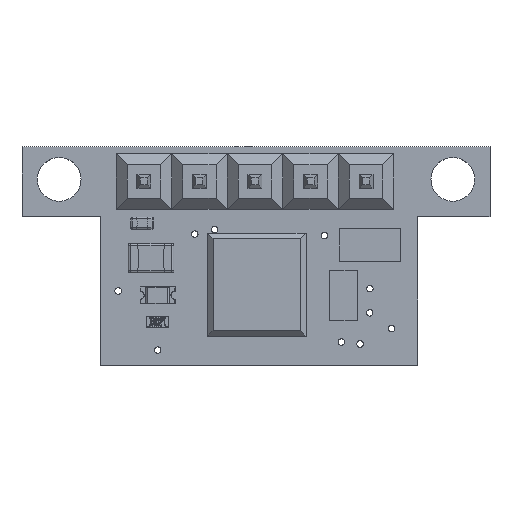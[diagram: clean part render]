
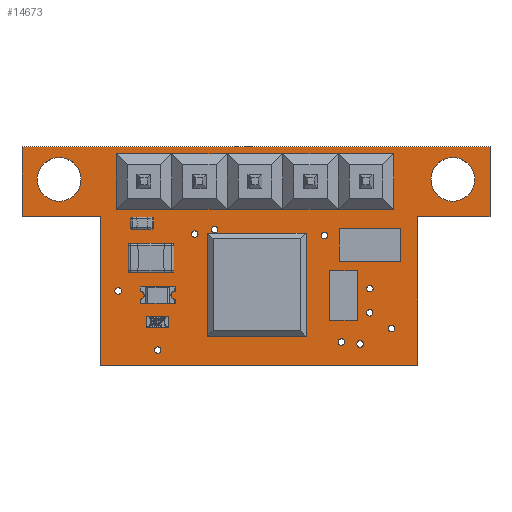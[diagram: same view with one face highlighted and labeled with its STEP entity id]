
A CAD part, top view. The second image highlights one B-rep face of the part: STEP entity #14673.
In plain terms, the highlighted planar face has unit normal (0, 0, 1).
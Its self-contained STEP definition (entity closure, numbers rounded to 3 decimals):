
#378=FACE_BOUND('',#1917,.T.);
#379=FACE_BOUND('',#1918,.T.);
#380=FACE_BOUND('',#1919,.T.);
#381=FACE_BOUND('',#1920,.T.);
#382=FACE_BOUND('',#1921,.T.);
#383=FACE_BOUND('',#1922,.T.);
#384=FACE_BOUND('',#1923,.T.);
#385=FACE_BOUND('',#1924,.T.);
#386=FACE_BOUND('',#1925,.T.);
#387=FACE_BOUND('',#1926,.T.);
#388=FACE_BOUND('',#1927,.T.);
#389=FACE_BOUND('',#1928,.T.);
#390=FACE_BOUND('',#1929,.T.);
#391=FACE_BOUND('',#1930,.T.);
#392=FACE_BOUND('',#1931,.T.);
#393=FACE_BOUND('',#1932,.T.);
#394=FACE_BOUND('',#1933,.T.);
#395=FACE_BOUND('',#1934,.T.);
#454=PLANE('',#15714);
#1090=FACE_OUTER_BOUND('',#1916,.T.);
#1916=EDGE_LOOP('',(#9793,#9794,#9795,#9796,#9797,#9798,#9799,#9800));
#1917=EDGE_LOOP('',(#9801));
#1918=EDGE_LOOP('',(#9802));
#1919=EDGE_LOOP('',(#9803));
#1920=EDGE_LOOP('',(#9804));
#1921=EDGE_LOOP('',(#9805));
#1922=EDGE_LOOP('',(#9806));
#1923=EDGE_LOOP('',(#9807));
#1924=EDGE_LOOP('',(#9808));
#1925=EDGE_LOOP('',(#9809));
#1926=EDGE_LOOP('',(#9810));
#1927=EDGE_LOOP('',(#9811));
#1928=EDGE_LOOP('',(#9812));
#1929=EDGE_LOOP('',(#9813));
#1930=EDGE_LOOP('',(#9814));
#1931=EDGE_LOOP('',(#9815));
#1932=EDGE_LOOP('',(#9816));
#1933=EDGE_LOOP('',(#9817));
#1934=EDGE_LOOP('',(#9818));
#2804=LINE('',#20985,#4380);
#2807=LINE('',#20991,#4383);
#2810=LINE('',#20997,#4386);
#2813=LINE('',#21003,#4389);
#2816=LINE('',#21009,#4392);
#2819=LINE('',#21015,#4395);
#2822=LINE('',#21021,#4398);
#2825=LINE('',#21025,#4401);
#4380=VECTOR('',#16999,10.);
#4383=VECTOR('',#17004,10.);
#4386=VECTOR('',#17009,10.);
#4389=VECTOR('',#17014,10.);
#4392=VECTOR('',#17019,10.);
#4395=VECTOR('',#17024,10.);
#4398=VECTOR('',#17029,10.);
#4401=VECTOR('',#17034,10.);
#5937=CIRCLE('',#15654,0.508);
#5939=CIRCLE('',#15657,0.508);
#5941=CIRCLE('',#15660,0.15);
#5943=CIRCLE('',#15663,0.15);
#5945=CIRCLE('',#15666,0.15);
#5947=CIRCLE('',#15669,0.15);
#5949=CIRCLE('',#15672,0.15);
#5951=CIRCLE('',#15675,0.15);
#5953=CIRCLE('',#15678,0.15);
#5955=CIRCLE('',#15681,0.15);
#5957=CIRCLE('',#15684,0.15);
#5959=CIRCLE('',#15687,0.15);
#5961=CIRCLE('',#15690,0.15);
#5963=CIRCLE('',#15693,0.508);
#5965=CIRCLE('',#15696,0.508);
#5967=CIRCLE('',#15699,0.508);
#5968=CIRCLE('',#15701,1.);
#5970=CIRCLE('',#15704,1.);
#6256=VERTEX_POINT('',#20873);
#6258=VERTEX_POINT('',#20879);
#6260=VERTEX_POINT('',#20885);
#6262=VERTEX_POINT('',#20891);
#6264=VERTEX_POINT('',#20897);
#6266=VERTEX_POINT('',#20903);
#6268=VERTEX_POINT('',#20909);
#6270=VERTEX_POINT('',#20915);
#6272=VERTEX_POINT('',#20921);
#6274=VERTEX_POINT('',#20927);
#6276=VERTEX_POINT('',#20933);
#6278=VERTEX_POINT('',#20939);
#6280=VERTEX_POINT('',#20945);
#6282=VERTEX_POINT('',#20951);
#6284=VERTEX_POINT('',#20957);
#6286=VERTEX_POINT('',#20963);
#6287=VERTEX_POINT('',#20967);
#6289=VERTEX_POINT('',#20973);
#6293=VERTEX_POINT('',#20982);
#6294=VERTEX_POINT('',#20984);
#6296=VERTEX_POINT('',#20990);
#6298=VERTEX_POINT('',#20996);
#6300=VERTEX_POINT('',#21002);
#6302=VERTEX_POINT('',#21008);
#6304=VERTEX_POINT('',#21014);
#6306=VERTEX_POINT('',#21020);
#7609=EDGE_CURVE('',#6256,#6256,#5937,.T.);
#7612=EDGE_CURVE('',#6258,#6258,#5939,.T.);
#7615=EDGE_CURVE('',#6260,#6260,#5941,.T.);
#7618=EDGE_CURVE('',#6262,#6262,#5943,.T.);
#7621=EDGE_CURVE('',#6264,#6264,#5945,.T.);
#7624=EDGE_CURVE('',#6266,#6266,#5947,.T.);
#7627=EDGE_CURVE('',#6268,#6268,#5949,.T.);
#7630=EDGE_CURVE('',#6270,#6270,#5951,.T.);
#7633=EDGE_CURVE('',#6272,#6272,#5953,.T.);
#7636=EDGE_CURVE('',#6274,#6274,#5955,.T.);
#7639=EDGE_CURVE('',#6276,#6276,#5957,.T.);
#7642=EDGE_CURVE('',#6278,#6278,#5959,.T.);
#7645=EDGE_CURVE('',#6280,#6280,#5961,.T.);
#7648=EDGE_CURVE('',#6282,#6282,#5963,.T.);
#7651=EDGE_CURVE('',#6284,#6284,#5965,.T.);
#7654=EDGE_CURVE('',#6286,#6286,#5967,.T.);
#7655=EDGE_CURVE('',#6287,#6287,#5968,.T.);
#7658=EDGE_CURVE('',#6289,#6289,#5970,.T.);
#7663=EDGE_CURVE('',#6294,#6293,#2804,.T.);
#7666=EDGE_CURVE('',#6296,#6294,#2807,.T.);
#7669=EDGE_CURVE('',#6298,#6296,#2810,.T.);
#7672=EDGE_CURVE('',#6300,#6298,#2813,.T.);
#7675=EDGE_CURVE('',#6302,#6300,#2816,.T.);
#7678=EDGE_CURVE('',#6304,#6302,#2819,.T.);
#7681=EDGE_CURVE('',#6306,#6304,#2822,.T.);
#7684=EDGE_CURVE('',#6293,#6306,#2825,.T.);
#9793=ORIENTED_EDGE('',*,*,#7684,.T.);
#9794=ORIENTED_EDGE('',*,*,#7681,.T.);
#9795=ORIENTED_EDGE('',*,*,#7678,.T.);
#9796=ORIENTED_EDGE('',*,*,#7675,.T.);
#9797=ORIENTED_EDGE('',*,*,#7672,.T.);
#9798=ORIENTED_EDGE('',*,*,#7669,.T.);
#9799=ORIENTED_EDGE('',*,*,#7666,.T.);
#9800=ORIENTED_EDGE('',*,*,#7663,.T.);
#9801=ORIENTED_EDGE('',*,*,#7609,.T.);
#9802=ORIENTED_EDGE('',*,*,#7612,.T.);
#9803=ORIENTED_EDGE('',*,*,#7615,.T.);
#9804=ORIENTED_EDGE('',*,*,#7618,.T.);
#9805=ORIENTED_EDGE('',*,*,#7621,.T.);
#9806=ORIENTED_EDGE('',*,*,#7624,.T.);
#9807=ORIENTED_EDGE('',*,*,#7627,.T.);
#9808=ORIENTED_EDGE('',*,*,#7630,.T.);
#9809=ORIENTED_EDGE('',*,*,#7633,.T.);
#9810=ORIENTED_EDGE('',*,*,#7636,.T.);
#9811=ORIENTED_EDGE('',*,*,#7639,.T.);
#9812=ORIENTED_EDGE('',*,*,#7642,.T.);
#9813=ORIENTED_EDGE('',*,*,#7645,.T.);
#9814=ORIENTED_EDGE('',*,*,#7648,.T.);
#9815=ORIENTED_EDGE('',*,*,#7651,.T.);
#9816=ORIENTED_EDGE('',*,*,#7654,.T.);
#9817=ORIENTED_EDGE('',*,*,#7658,.T.);
#9818=ORIENTED_EDGE('',*,*,#7655,.T.);
#14673=ADVANCED_FACE('',(#1090,#378,#379,#380,#381,#382,#383,#384,#385,
#386,#387,#388,#389,#390,#391,#392,#393,#394,#395),#454,.T.);
#15654=AXIS2_PLACEMENT_3D('',#20875,#16874,#16875);
#15657=AXIS2_PLACEMENT_3D('',#20881,#16881,#16882);
#15660=AXIS2_PLACEMENT_3D('',#20887,#16888,#16889);
#15663=AXIS2_PLACEMENT_3D('',#20893,#16895,#16896);
#15666=AXIS2_PLACEMENT_3D('',#20899,#16902,#16903);
#15669=AXIS2_PLACEMENT_3D('',#20905,#16909,#16910);
#15672=AXIS2_PLACEMENT_3D('',#20911,#16916,#16917);
#15675=AXIS2_PLACEMENT_3D('',#20917,#16923,#16924);
#15678=AXIS2_PLACEMENT_3D('',#20923,#16930,#16931);
#15681=AXIS2_PLACEMENT_3D('',#20929,#16937,#16938);
#15684=AXIS2_PLACEMENT_3D('',#20935,#16944,#16945);
#15687=AXIS2_PLACEMENT_3D('',#20941,#16951,#16952);
#15690=AXIS2_PLACEMENT_3D('',#20947,#16958,#16959);
#15693=AXIS2_PLACEMENT_3D('',#20953,#16965,#16966);
#15696=AXIS2_PLACEMENT_3D('',#20959,#16972,#16973);
#15699=AXIS2_PLACEMENT_3D('',#20965,#16979,#16980);
#15701=AXIS2_PLACEMENT_3D('',#20968,#16983,#16984);
#15704=AXIS2_PLACEMENT_3D('',#20974,#16990,#16991);
#15714=AXIS2_PLACEMENT_3D('',#21026,#17035,#17036);
#16874=DIRECTION('center_axis',(0.,0.,-1.));
#16875=DIRECTION('ref_axis',(1.,0.,0.));
#16881=DIRECTION('center_axis',(0.,0.,-1.));
#16882=DIRECTION('ref_axis',(1.,0.,0.));
#16888=DIRECTION('center_axis',(0.,0.,-1.));
#16889=DIRECTION('ref_axis',(1.,0.,0.));
#16895=DIRECTION('center_axis',(0.,0.,-1.));
#16896=DIRECTION('ref_axis',(1.,0.,0.));
#16902=DIRECTION('center_axis',(0.,0.,-1.));
#16903=DIRECTION('ref_axis',(1.,0.,0.));
#16909=DIRECTION('center_axis',(0.,0.,-1.));
#16910=DIRECTION('ref_axis',(1.,0.,0.));
#16916=DIRECTION('center_axis',(0.,0.,-1.));
#16917=DIRECTION('ref_axis',(1.,0.,0.));
#16923=DIRECTION('center_axis',(0.,0.,-1.));
#16924=DIRECTION('ref_axis',(1.,0.,0.));
#16930=DIRECTION('center_axis',(0.,0.,-1.));
#16931=DIRECTION('ref_axis',(1.,0.,0.));
#16937=DIRECTION('center_axis',(0.,0.,-1.));
#16938=DIRECTION('ref_axis',(1.,0.,0.));
#16944=DIRECTION('center_axis',(0.,0.,-1.));
#16945=DIRECTION('ref_axis',(1.,0.,0.));
#16951=DIRECTION('center_axis',(0.,0.,-1.));
#16952=DIRECTION('ref_axis',(1.,0.,0.));
#16958=DIRECTION('center_axis',(0.,0.,-1.));
#16959=DIRECTION('ref_axis',(1.,0.,0.));
#16965=DIRECTION('center_axis',(0.,0.,-1.));
#16966=DIRECTION('ref_axis',(1.,0.,0.));
#16972=DIRECTION('center_axis',(0.,0.,-1.));
#16973=DIRECTION('ref_axis',(1.,0.,0.));
#16979=DIRECTION('center_axis',(0.,0.,-1.));
#16980=DIRECTION('ref_axis',(1.,0.,0.));
#16983=DIRECTION('center_axis',(0.,0.,-1.));
#16984=DIRECTION('ref_axis',(1.,0.,0.));
#16990=DIRECTION('center_axis',(0.,0.,-1.));
#16991=DIRECTION('ref_axis',(1.,0.,0.));
#16999=DIRECTION('',(1.,0.,0.));
#17004=DIRECTION('',(0.,-1.,0.));
#17009=DIRECTION('',(-1.,0.,0.));
#17014=DIRECTION('',(0.,1.,0.));
#17019=DIRECTION('',(1.,0.,0.));
#17024=DIRECTION('',(0.,1.,0.));
#17029=DIRECTION('',(1.,0.,0.));
#17034=DIRECTION('',(0.,-1.,0.));
#17035=DIRECTION('center_axis',(0.,0.,1.));
#17036=DIRECTION('ref_axis',(1.,0.,0.));
#20873=CARTESIAN_POINT('',(9.112,8.4,1.57));
#20875=CARTESIAN_POINT('Origin',(9.62,8.4,1.57));
#20879=CARTESIAN_POINT('',(4.032,8.4,1.57));
#20881=CARTESIAN_POINT('Origin',(4.54,8.4,1.57));
#20885=CARTESIAN_POINT('',(13.15,1.678,1.57));
#20887=CARTESIAN_POINT('Origin',(13.3,1.678,1.57));
#20891=CARTESIAN_POINT('',(11.71,0.978,1.57));
#20893=CARTESIAN_POINT('Origin',(11.86,0.978,1.57));
#20897=CARTESIAN_POINT('',(2.454,0.696,1.57));
#20899=CARTESIAN_POINT('Origin',(2.604,0.696,1.57));
#20903=CARTESIAN_POINT('',(5.058,6.2,1.57));
#20905=CARTESIAN_POINT('Origin',(5.208,6.2,1.57));
#20909=CARTESIAN_POINT('',(10.74,7.626,1.57));
#20911=CARTESIAN_POINT('Origin',(10.89,7.626,1.57));
#20915=CARTESIAN_POINT('',(4.15,6.,1.57));
#20917=CARTESIAN_POINT('Origin',(4.3,6.,1.57));
#20921=CARTESIAN_POINT('',(12.157,3.507,1.57));
#20923=CARTESIAN_POINT('Origin',(12.307,3.507,1.57));
#20927=CARTESIAN_POINT('',(12.15,2.4,1.57));
#20929=CARTESIAN_POINT('Origin',(12.3,2.4,1.57));
#20933=CARTESIAN_POINT('',(10.081,5.931,1.57));
#20935=CARTESIAN_POINT('Origin',(10.231,5.931,1.57));
#20939=CARTESIAN_POINT('',(0.65,3.4,1.57));
#20941=CARTESIAN_POINT('Origin',(0.8,3.4,1.57));
#20945=CARTESIAN_POINT('',(10.85,1.064,1.57));
#20947=CARTESIAN_POINT('Origin',(11.,1.064,1.57));
#20951=CARTESIAN_POINT('',(1.492,8.4,1.57));
#20953=CARTESIAN_POINT('Origin',(2.,8.4,1.57));
#20957=CARTESIAN_POINT('',(6.572,8.4,1.57));
#20959=CARTESIAN_POINT('Origin',(7.08,8.4,1.57));
#20963=CARTESIAN_POINT('',(11.652,8.4,1.57));
#20965=CARTESIAN_POINT('Origin',(12.16,8.4,1.57));
#20967=CARTESIAN_POINT('',(-2.9,8.5,1.57));
#20968=CARTESIAN_POINT('Origin',(-1.9,8.5,1.57));
#20973=CARTESIAN_POINT('',(15.1,8.5,1.57));
#20974=CARTESIAN_POINT('Origin',(16.1,8.5,1.57));
#20982=CARTESIAN_POINT('',(0.,6.8,1.57));
#20984=CARTESIAN_POINT('',(-3.6,6.8,1.57));
#20985=CARTESIAN_POINT('',(-3.6,6.8,1.57));
#20990=CARTESIAN_POINT('',(-3.6,10.,1.57));
#20991=CARTESIAN_POINT('',(-3.6,10.,1.57));
#20996=CARTESIAN_POINT('',(17.8,10.,1.57));
#20997=CARTESIAN_POINT('',(17.8,10.,1.57));
#21002=CARTESIAN_POINT('',(17.8,6.8,1.57));
#21003=CARTESIAN_POINT('',(17.8,6.8,1.57));
#21008=CARTESIAN_POINT('',(14.5,6.8,1.57));
#21009=CARTESIAN_POINT('',(14.5,6.8,1.57));
#21014=CARTESIAN_POINT('',(14.5,0.,1.57));
#21015=CARTESIAN_POINT('',(14.5,0.,1.57));
#21020=CARTESIAN_POINT('',(0.,0.,1.57));
#21021=CARTESIAN_POINT('',(0.,0.,1.57));
#21025=CARTESIAN_POINT('',(0.,6.8,1.57));
#21026=CARTESIAN_POINT('Origin',(7.1,5.,1.57));
